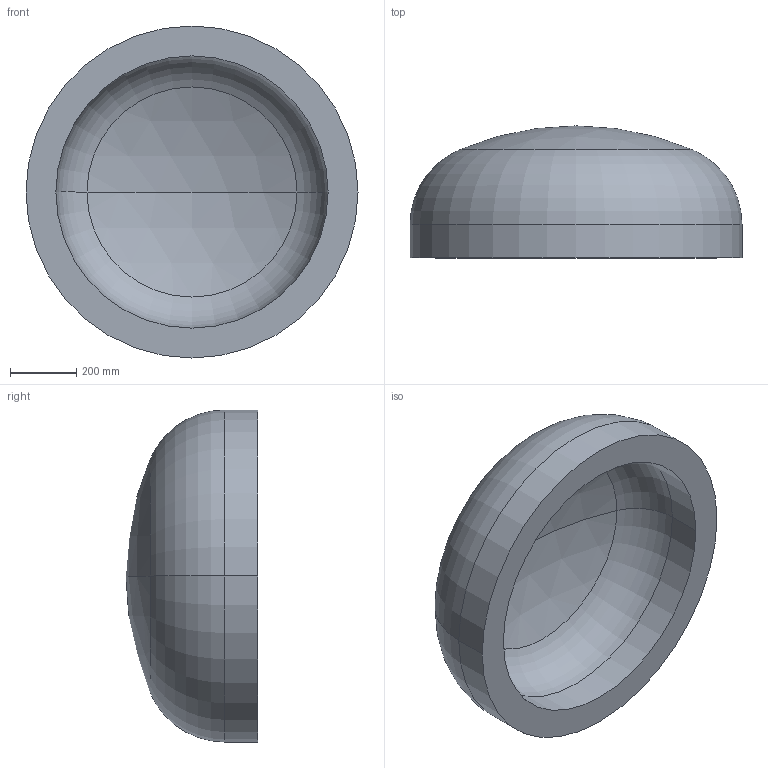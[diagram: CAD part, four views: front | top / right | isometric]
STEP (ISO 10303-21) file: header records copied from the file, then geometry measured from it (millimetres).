
FILE_DESCRIPTION (( 'STEP AP203' ), '1' );
FILE_NAME ('DIN 28013 Korbbogenform_-_Boden DIN 28013 - 1000 x 100 - I - s=90.step', '2016-07-01T08:55:36', ( '' ), ( '' ), 'SwSTEP 2.0', 'SolidWorks 2013', '' );
FILE_SCHEMA (( 'CONFIG_CONTROL_DESIGN' ));
Length unit declared in the file: millimetre
Products named in the file (1): DIN 28013 Korbbogenform_-_Boden DIN 28013 - 1000 x 100 - I - s=90
Bounding box: 1000 x 397.55 x 1000 mm (x, y, z)
Volume: 113362467 mm3; surface area: 2793426.6 mm2
Topology: 1 solids, 1 shells, 13 faces, 24 edges, 14 vertices
Faces by surface type: torus 4, cylinder 4, sphere 4, plane 1
Entity records: 407 total; most frequent: DIRECTION 72, CARTESIAN_POINT 52, ORIENTED_EDGE 48, AXIS2_PLACEMENT_3D 34, EDGE_CURVE 24, CIRCLE 20, VERTEX_POINT 14, EDGE_LOOP 14
